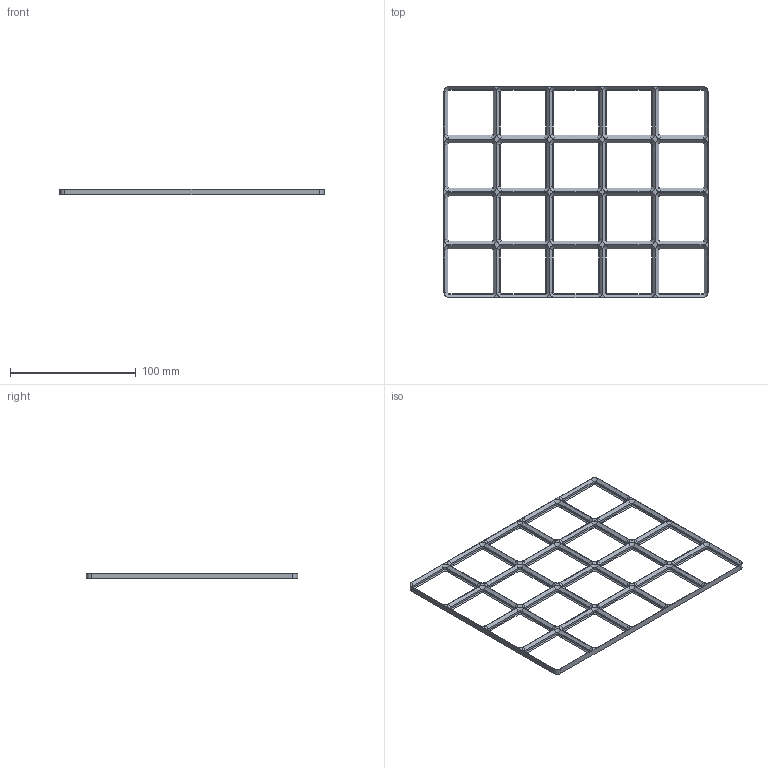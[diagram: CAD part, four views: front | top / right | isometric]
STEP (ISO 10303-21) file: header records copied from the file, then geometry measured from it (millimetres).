
FILE_DESCRIPTION(('Open CASCADE Model'),'2;1');
FILE_NAME('baseplate_5x4','2026-11-03T16:47:21',('Author'),( 'Open CASCADE'),'Open CASCADE STEP processor 8.0','build123d', 'Unknown');
FILE_SCHEMA(('AUTOMOTIVE_DESIGN { 1 0 10303 214 1 1 1 1 }'));
Length unit declared in the file: millimetre
Products named in the file (1): baseplate_5x4
Bounding box: 210 x 168 x 4.75 mm (x, y, z)
Volume: 26689.4 mm3; surface area: 31214 mm2
Topology: 1 solids, 1 shells, 650 faces, 1464 edges, 816 vertices
Faces by surface type: plane 326, cylinder 164, cone 160
Entity records: 34790 total; most frequent: CARTESIAN_POINT 8443, DIRECTION 3938, ORIENTED_EDGE 2928, PCURVE 2928, DEFINITIONAL_REPRESENTATION 2928, B_SPLINE_CURVE_WITH_KNOTS 2080, LINE 1736, VECTOR 1736
